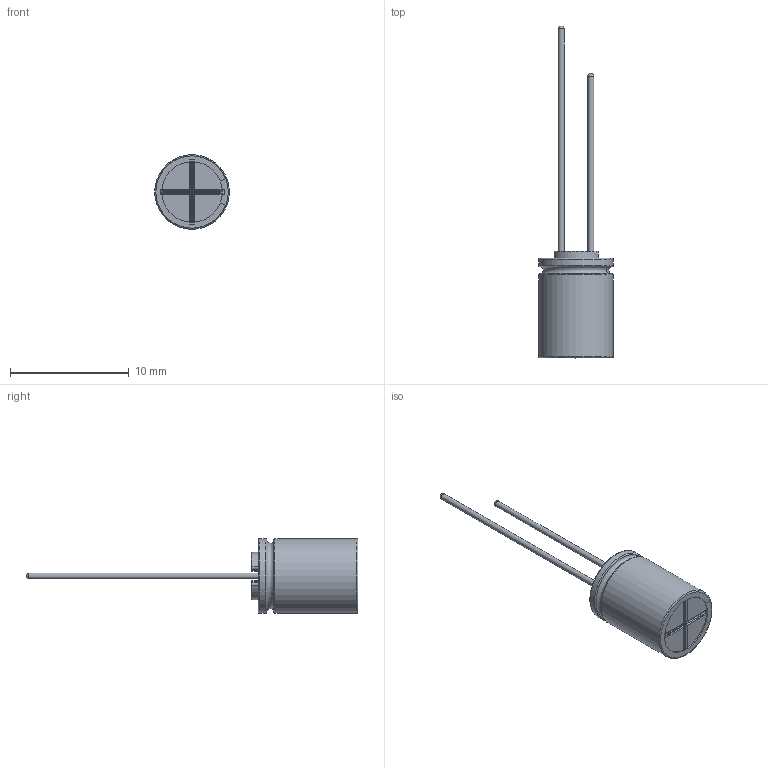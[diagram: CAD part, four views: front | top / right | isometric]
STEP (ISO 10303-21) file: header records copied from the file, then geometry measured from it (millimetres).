
FILE_DESCRIPTION(/* description */ (''),/* implementation_level */ '2;1');
FILE_NAME(/* name */ '6.3x9_Lead.stp',/* time_stamp */ '2017-09-05T13:42:49+09:00',/* author */ (''),/* organization */ (''),/* preprocessor_version */ 'ST-DEVELOPER v16',/* originating_system */ 'SIEMENS PLM Software NX 11.0',/* authorisation */ '');
FILE_SCHEMA (('AUTOMOTIVE_DESIGN { 1 0 10303 214 3 1 1 1 }'));
Length unit declared in the file: millimetre
Products named in the file (1): 6.3x9_Lead_0
Bounding box: 6.29 x 28 x 6.3 mm (x, y, z)
Volume: 266.2 mm3; surface area: 673 mm2
Topology: 3 solids, 3 shells, 120 faces, 296 edges, 185 vertices
Faces by surface type: cylinder 52, plane 31, torus 27, sphere 6, bspline 4
Full cylindrical faces by diameter (mm): 0.5 x2, 6.1 x2
Entity records: 4235 total; most frequent: CARTESIAN_POINT 701, DIRECTION 684, ORIENTED_EDGE 568, EDGE_CURVE 284, AXIS2_PLACEMENT_3D 283, VERTEX_POINT 180, CIRCLE 158, EDGE_LOOP 130
